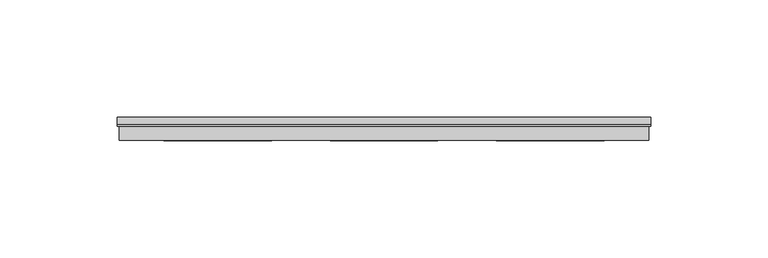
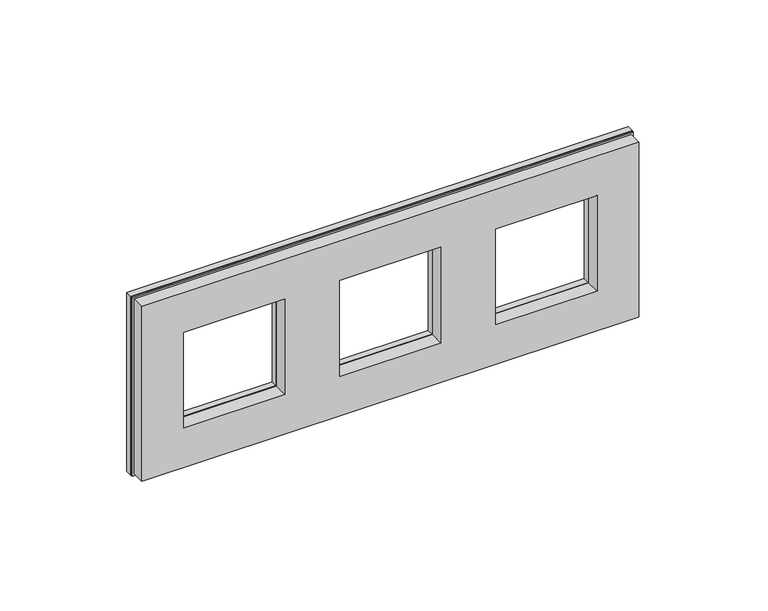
"""IFC4 building model written with IfcOpenShell, lengths in millimetres: proxy geometry, IEK_Skandy_Рамка : x3_SK-F23B."""

from ifc_helpers import new_model, si_unit, frame, origin, place, context, project, spatial, polyline, outline, extrude, faceted_brep, source, transform, mapped, element, save


def electrical_fixtures_5f74ea1d(model_context):
    return source(origin(), model_context, "Body", "SolidModel", [
        extrude(outline(polyline([(43.0, -185.0), (-43.0, -185.0), (-43.0, 43.0), (43.0, 43.0), (43.0, -185.0)]), holes=[polyline([(23.0, -23.0), (23.0, 23.0), (-23.0, 23.0), (-23.0, -23.0), (23.0, -23.0)]), polyline([(23.0, -165.0), (23.0, -119.0), (-23.0, -119.0), (-23.0, -165.0), (23.0, -165.0)]), polyline([(23.0, -94.0), (23.0, -48.0), (-23.0, -48.0), (-23.0, -94.0), (23.0, -94.0)])]), frame((0.0, 7.0, 0.0), z_axis=(0.0, 1.0, 0.0), x_axis=(0.0, 0.0, 1.0)), (0.0, 0.0, 1.0), 3.0),
        faceted_brep([(-23.0, 0.0, 23.0), (-23.0, 7.0, 23.0), (23.0, 7.0, 23.0), (23.0, 0.0, 23.0), (23.0, 7.0, -23.0), (23.0, 0.0, -23.0), (-23.0, 7.0, -23.0), (-23.0, 0.0, -23.0), (-185.0, 7.0, 43.0), (43.0, 7.0, 43.0), (43.0, 7.0, -43.0), (-185.0, 7.0, -43.0), (-119.0, 7.0, 23.0), (-165.0, 7.0, 23.0), (-165.0, 7.0, -23.0), (-119.0, 7.0, -23.0), (-48.0, 7.0, 23.0), (-94.0, 7.0, 23.0), (-94.0, 7.0, -23.0), (-48.0, 7.0, -23.0), (-184.0, 0.0, 42.0), (-184.0, 0.0, -42.0), (42.0, 0.0, -42.0), (42.0, 0.0, 42.0), (-165.0, 0.0, 23.0), (-119.0, 0.0, 23.0), (-119.0, 0.0, -23.0), (-165.0, 0.0, -23.0), (-94.0, 0.0, 23.0), (-48.0, 0.0, 23.0), (-48.0, 0.0, -23.0), (-94.0, 0.0, -23.0), (-184.0, 6.0, 42.0), (-184.0, 6.0, -42.0), (42.0, 6.0, -42.0), (42.0, 6.0, 42.0), (-185.0, 6.0, 43.0), (-185.0, 6.0, -43.0), (43.0, 6.0, -43.0), (43.0, 6.0, 43.0)], [[[0, 1, 2, 3]], [[3, 2, 4, 5]], [[5, 4, 6, 7]], [[1, 0, 7, 6]], [[8, 9, 10, 11], [2, 1, 6, 4], [12, 13, 14, 15], [16, 17, 18, 19]], [[20, 21, 22, 23], [0, 3, 5, 7], [24, 25, 26, 27], [28, 29, 30, 31]], [[21, 20, 32, 33]], [[22, 21, 33, 34]], [[23, 22, 34, 35]], [[20, 23, 35, 32]], [[24, 13, 12, 25]], [[25, 12, 15, 26]], [[26, 15, 14, 27]], [[13, 24, 27, 14]], [[28, 17, 16, 29]], [[29, 16, 19, 30]], [[30, 19, 18, 31]], [[17, 28, 31, 18]], [[36, 37, 38, 39], [33, 32, 35, 34]], [[37, 36, 8, 11]], [[38, 37, 11, 10]], [[39, 38, 10, 9]], [[36, 39, 9, 8]]]),
    ])


if __name__ == "__main__":
    model = new_model("IFC4")
    model_context = context("Model", 3, world=origin())
    ifc_project = project(units=[si_unit("LENGTHUNIT", "METRE", prefix="MILLI")], contexts=[model_context])
    site = spatial("IfcSite", under=ifc_project)
    building = spatial("IfcBuilding", under=site)
    placement = place(None, origin())
    electrical_fixtures_shape = electrical_fixtures_5f74ea1d(model_context)
    element("IfcBuildingElementProxy", 1, Name="IEK_Skandy_Рамка : x3_SK-F23B", ObjectType="IEK_Skandy_Рамка : x3_SK-F23B", at=placement, inside=building, context=model_context, shape_type="MappedRepresentation", body=[
        mapped(electrical_fixtures_shape, transform((0.0, 0.0, 0.0), x_axis=(1.0, 0.0, 0.0), y_axis=(0.0, 1.0, 0.0), z_axis=(0.0, 0.0, 1.0))),
    ])
    save(model, "model.ifc")
